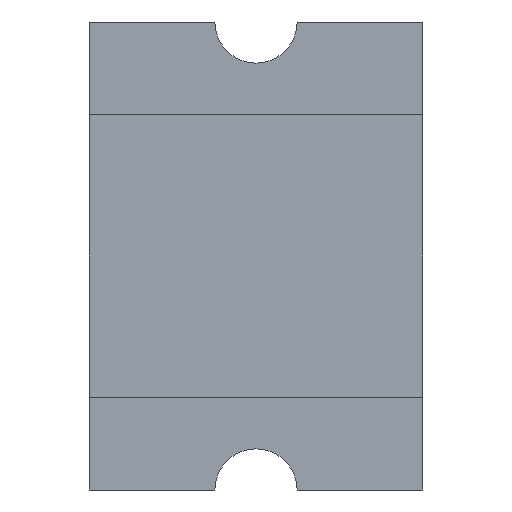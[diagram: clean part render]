
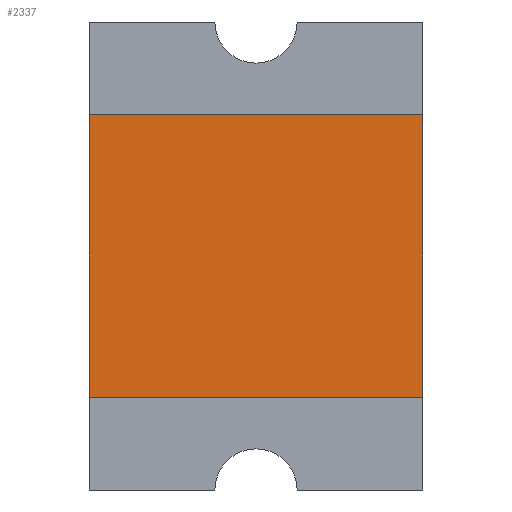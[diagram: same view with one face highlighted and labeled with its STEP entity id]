
A CAD part, front view. The second image highlights one B-rep face of the part: STEP entity #2337.
In plain terms, the highlighted planar face has unit normal (0, -1, 0).
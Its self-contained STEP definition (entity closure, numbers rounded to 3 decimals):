
#149 = ORIENTED_EDGE ( 'NONE', *, *, #532, .T. ) ;
#318 = CARTESIAN_POINT ( 'NONE',  ( -1.786, 0., -2.907 ) ) ;
#449 = DIRECTION ( 'NONE',  ( -1., 0., 0. ) ) ;
#531 = VECTOR ( 'NONE', #4306, 1000. ) ;
#532 = EDGE_CURVE ( 'NONE', #875, #965, #3754, .T. ) ;
#586 = EDGE_CURVE ( 'NONE', #3324, #4452, #1176, .T. ) ;
#677 = CARTESIAN_POINT ( 'NONE',  ( -1.786, 0., -1.532 ) ) ;
#708 = LINE ( 'NONE', #1378, #1168 ) ;
#875 = VERTEX_POINT ( 'NONE', #318 ) ;
#965 = VERTEX_POINT ( 'NONE', #1825 ) ;
#1076 = DIRECTION ( 'NONE',  ( 0., 0., -1. ) ) ;
#1168 = VECTOR ( 'NONE', #1454, 1000. ) ;
#1176 = LINE ( 'NONE', #2609, #2661 ) ;
#1209 = EDGE_LOOP ( 'NONE', ( #3024, #2404, #149, #2869 ) ) ;
#1299 = EDGE_CURVE ( 'NONE', #4452, #875, #1835, .T. ) ;
#1378 = CARTESIAN_POINT ( 'NONE',  ( 1.454, 0., -1.532 ) ) ;
#1454 = DIRECTION ( 'NONE',  ( 0., 0., 1. ) ) ;
#1686 = AXIS2_PLACEMENT_3D ( 'NONE', #2512, #2140, #1076 ) ;
#1715 = CARTESIAN_POINT ( 'NONE',  ( 1.454, 0., -0.157 ) ) ;
#1825 = CARTESIAN_POINT ( 'NONE',  ( 1.454, 0., -2.907 ) ) ;
#1835 = LINE ( 'NONE', #677, #531 ) ;
#2128 = VECTOR ( 'NONE', #4158, 1000. ) ;
#2140 = DIRECTION ( 'NONE',  ( 0., -1., 0. ) ) ;
#2337 = ADVANCED_FACE ( 'NONE', ( #3258 ), #2872, .T. ) ;
#2404 = ORIENTED_EDGE ( 'NONE', *, *, #1299, .T. ) ;
#2512 = CARTESIAN_POINT ( 'NONE',  ( -0.166, 0., -1.532 ) ) ;
#2609 = CARTESIAN_POINT ( 'NONE',  ( -0.166, 0., -0.157 ) ) ;
#2661 = VECTOR ( 'NONE', #449, 1000. ) ;
#2869 = ORIENTED_EDGE ( 'NONE', *, *, #3739, .T. ) ;
#2872 = PLANE ( 'NONE',  #1686 ) ;
#3024 = ORIENTED_EDGE ( 'NONE', *, *, #586, .T. ) ;
#3258 = FACE_OUTER_BOUND ( 'NONE', #1209, .T. ) ;
#3324 = VERTEX_POINT ( 'NONE', #1715 ) ;
#3472 = CARTESIAN_POINT ( 'NONE',  ( -1.786, 0., -0.157 ) ) ;
#3739 = EDGE_CURVE ( 'NONE', #965, #3324, #708, .T. ) ;
#3754 = LINE ( 'NONE', #4431, #2128 ) ;
#4158 = DIRECTION ( 'NONE',  ( 1., 0., 0. ) ) ;
#4306 = DIRECTION ( 'NONE',  ( 0., 0., -1. ) ) ;
#4431 = CARTESIAN_POINT ( 'NONE',  ( -0.166, 0., -2.907 ) ) ;
#4452 = VERTEX_POINT ( 'NONE', #3472 ) ;
